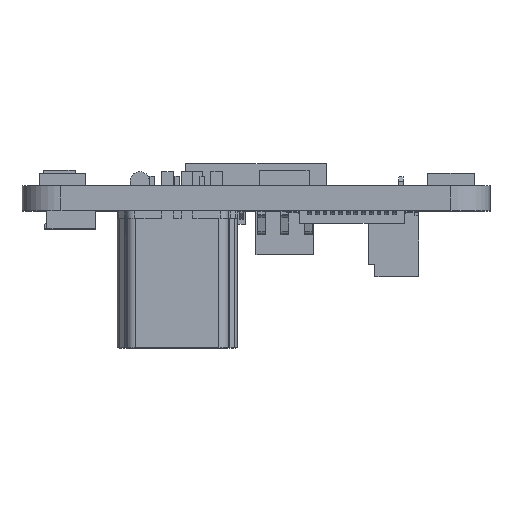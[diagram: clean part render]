
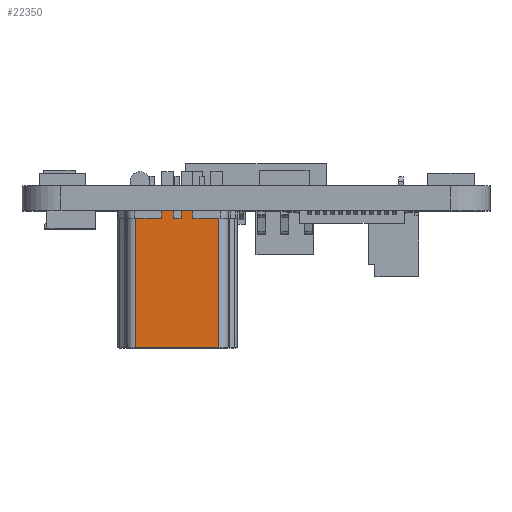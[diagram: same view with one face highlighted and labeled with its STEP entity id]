
A CAD part, top view. The second image highlights one B-rep face of the part: STEP entity #22350.
In plain terms, the highlighted planar face has unit normal (0, 0, 1).
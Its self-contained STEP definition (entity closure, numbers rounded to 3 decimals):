
#260=DIRECTION('',(-1.,0.,0.));
#261=VECTOR('',#260,0.75);
#262=CARTESIAN_POINT('',(-4.05,0.,10.75));
#263=LINE('',#262,#261);
#276=DIRECTION('',(-1.,0.,0.));
#277=VECTOR('',#276,0.75);
#278=CARTESIAN_POINT('',(-5.3,0.,10.75));
#279=LINE('',#278,#277);
#3178=DIRECTION('',(0.,-1.,0.));
#3179=VECTOR('',#3178,0.5);
#3180=CARTESIAN_POINT('',(-4.05,0.,10.75));
#3181=LINE('',#3180,#3179);
#3182=DIRECTION('',(-1.,0.,0.));
#3183=VECTOR('',#3182,5.328);
#3184=CARTESIAN_POINT('',(-2.386,-8.8,10.75));
#3185=LINE('',#3184,#3183);
#3186=DIRECTION('',(0.,1.,0.));
#3187=VECTOR('',#3186,0.5);
#3188=CARTESIAN_POINT('',(-6.05,-0.5,10.75));
#3189=LINE('',#3188,#3187);
#3190=DIRECTION('',(0.,-1.,0.));
#3191=VECTOR('',#3190,0.5);
#3192=CARTESIAN_POINT('',(-5.3,0.,10.75));
#3193=LINE('',#3192,#3191);
#3194=DIRECTION('',(0.,1.,0.));
#3195=VECTOR('',#3194,0.5);
#3196=CARTESIAN_POINT('',(-4.8,-0.5,10.75));
#3197=LINE('',#3196,#3195);
#3265=DIRECTION('',(-1.,0.,0.));
#3266=VECTOR('',#3265,1.664);
#3267=CARTESIAN_POINT('',(-6.05,-0.5,10.75));
#3268=LINE('',#3267,#3266);
#3600=DIRECTION('',(-1.,0.,0.));
#3601=VECTOR('',#3600,1.664);
#3602=CARTESIAN_POINT('',(-2.386,-0.5,10.75));
#3603=LINE('',#3602,#3601);
#3615=DIRECTION('',(0.,1.,0.));
#3616=VECTOR('',#3615,8.3);
#3617=CARTESIAN_POINT('',(-2.386,-8.8,10.75));
#3618=LINE('',#3617,#3616);
#4749=DIRECTION('',(0.,-1.,0.));
#4750=VECTOR('',#4749,8.3);
#4751=CARTESIAN_POINT('',(-7.714,-0.5,10.75));
#4752=LINE('',#4751,#4750);
#5328=DIRECTION('',(-1.,0.,0.));
#5329=VECTOR('',#5328,0.5);
#5330=CARTESIAN_POINT('',(-4.8,-0.5,10.75));
#5331=LINE('',#5330,#5329);
#14662=CARTESIAN_POINT('',(-7.714,-8.8,10.75));
#14663=VERTEX_POINT('',#14662);
#14664=CARTESIAN_POINT('',(-2.386,-8.8,10.75));
#14665=VERTEX_POINT('',#14664);
#14763=CARTESIAN_POINT('',(-5.3,-0.5,10.75));
#14765=VERTEX_POINT('',#14763);
#14768=CARTESIAN_POINT('',(-4.8,-0.5,10.75));
#14769=VERTEX_POINT('',#14768);
#14774=CARTESIAN_POINT('',(-6.05,-0.5,10.75));
#14775=VERTEX_POINT('',#14774);
#14776=CARTESIAN_POINT('',(-7.714,-0.5,10.75));
#14777=VERTEX_POINT('',#14776);
#14806=CARTESIAN_POINT('',(-2.386,-0.5,10.75));
#14807=VERTEX_POINT('',#14806);
#14808=CARTESIAN_POINT('',(-4.05,-0.5,10.75));
#14809=VERTEX_POINT('',#14808);
#15316=CARTESIAN_POINT('',(-4.05,0.,10.75));
#15317=CARTESIAN_POINT('',(-4.8,0.,10.75));
#15318=VERTEX_POINT('',#15316);
#15319=VERTEX_POINT('',#15317);
#15320=CARTESIAN_POINT('',(-5.3,0.,10.75));
#15321=CARTESIAN_POINT('',(-6.05,0.,10.75));
#15322=VERTEX_POINT('',#15320);
#15323=VERTEX_POINT('',#15321);
#22321=CARTESIAN_POINT('',(-2.386,-8.8,10.75));
#22322=DIRECTION('',(0.,0.,1.));
#22323=DIRECTION('',(-1.,0.,0.));
#22324=AXIS2_PLACEMENT_3D('',#22321,#22322,#22323);
#22325=PLANE('',#22324);
#22326=ORIENTED_EDGE('',*,*,#18801,.F.);
#22328=ORIENTED_EDGE('',*,*,#22327,.T.);
#22330=ORIENTED_EDGE('',*,*,#22329,.F.);
#22332=ORIENTED_EDGE('',*,*,#22331,.F.);
#22334=ORIENTED_EDGE('',*,*,#22333,.T.);
#22336=ORIENTED_EDGE('',*,*,#22335,.F.);
#22338=ORIENTED_EDGE('',*,*,#22337,.F.);
#22340=ORIENTED_EDGE('',*,*,#22339,.T.);
#22341=ORIENTED_EDGE('',*,*,#18811,.F.);
#22343=ORIENTED_EDGE('',*,*,#22342,.T.);
#22345=ORIENTED_EDGE('',*,*,#22344,.F.);
#22347=ORIENTED_EDGE('',*,*,#22346,.T.);
#22348=EDGE_LOOP('',(#22326,#22328,#22330,#22332,#22334,#22336,#22338,#22340,
#22341,#22343,#22345,#22347));
#22349=FACE_OUTER_BOUND('',#22348,.F.);
#18801=EDGE_CURVE('',#15318,#15319,#263,.T.);
#18811=EDGE_CURVE('',#15322,#15323,#279,.T.);
#22327=EDGE_CURVE('',#15318,#14809,#3181,.T.);
#22329=EDGE_CURVE('',#14807,#14809,#3603,.T.);
#22331=EDGE_CURVE('',#14665,#14807,#3618,.T.);
#22333=EDGE_CURVE('',#14665,#14663,#3185,.T.);
#22335=EDGE_CURVE('',#14777,#14663,#4752,.T.);
#22337=EDGE_CURVE('',#14775,#14777,#3268,.T.);
#22339=EDGE_CURVE('',#14775,#15323,#3189,.T.);
#22342=EDGE_CURVE('',#15322,#14765,#3193,.T.);
#22344=EDGE_CURVE('',#14769,#14765,#5331,.T.);
#22346=EDGE_CURVE('',#14769,#15319,#3197,.T.);
#22350=ADVANCED_FACE('',(#22349),#22325,.T.);
